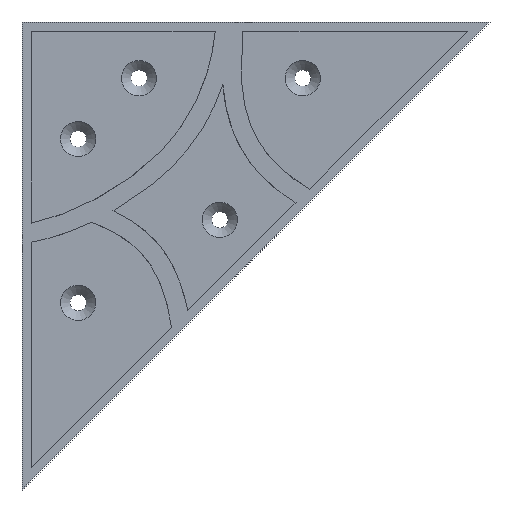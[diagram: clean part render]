
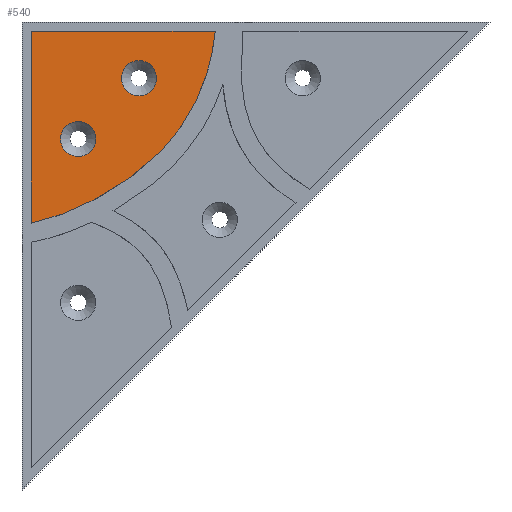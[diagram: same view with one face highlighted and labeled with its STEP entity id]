
A CAD part, front view. The second image highlights one B-rep face of the part: STEP entity #540.
In plain terms, the highlighted planar face has unit normal (0, -1, 0).
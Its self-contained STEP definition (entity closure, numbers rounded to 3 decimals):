
#25=CIRCLE('',#587,3.75);
#26=CIRCLE('',#588,3.75);
#51=FACE_BOUND('',#133,.T.);
#52=FACE_BOUND('',#134,.T.);
#77=B_SPLINE_CURVE_WITH_KNOTS('',3,(#954,#955,#956,#957,#958,#959,#960,
#961,#962,#963),.UNSPECIFIED.,.F.,.F.,(4,2,2,2,4),(0.222,1.152,
2.751,3.604,4.172),.UNSPECIFIED.);
#95=FACE_OUTER_BOUND('',#132,.T.);
#132=EDGE_LOOP('',(#412,#413,#414));
#133=EDGE_LOOP('',(#415));
#134=EDGE_LOOP('',(#416));
#177=LINE('',#853,#213);
#185=LINE('',#912,#221);
#213=VECTOR('',#636,10.);
#221=VECTOR('',#656,10.);
#255=VERTEX_POINT('',#844);
#256=VERTEX_POINT('',#851);
#265=VERTEX_POINT('',#911);
#266=VERTEX_POINT('',#964);
#267=VERTEX_POINT('',#966);
#306=EDGE_CURVE('',#255,#256,#177,.T.);
#320=EDGE_CURVE('',#256,#265,#185,.T.);
#323=EDGE_CURVE('',#265,#255,#77,.T.);
#324=EDGE_CURVE('',#266,#266,#25,.T.);
#325=EDGE_CURVE('',#267,#267,#26,.T.);
#412=ORIENTED_EDGE('',*,*,#306,.T.);
#413=ORIENTED_EDGE('',*,*,#320,.T.);
#414=ORIENTED_EDGE('',*,*,#323,.T.);
#415=ORIENTED_EDGE('',*,*,#324,.F.);
#416=ORIENTED_EDGE('',*,*,#325,.F.);
#523=PLANE('',#586);
#540=ADVANCED_FACE('',(#95,#51,#52),#523,.F.);
#586=AXIS2_PLACEMENT_3D('',#953,#657,#658);
#587=AXIS2_PLACEMENT_3D('',#965,#659,#660);
#588=AXIS2_PLACEMENT_3D('',#967,#661,#662);
#636=DIRECTION('',(-1.,0.,0.));
#656=DIRECTION('',(0.,0.,-1.));
#657=DIRECTION('center_axis',(0.,1.,0.));
#658=DIRECTION('ref_axis',(1.,0.,0.));
#659=DIRECTION('center_axis',(0.,-1.,0.));
#660=DIRECTION('ref_axis',(1.,0.,0.));
#661=DIRECTION('center_axis',(0.,-1.,0.));
#662=DIRECTION('ref_axis',(1.,0.,0.));
#844=CARTESIAN_POINT('',(3.618,-5.,44.981));
#851=CARTESIAN_POINT('',(-35.663,-5.,44.981));
#853=CARTESIAN_POINT('',(-11.663,-5.,44.981));
#911=CARTESIAN_POINT('',(-35.663,-5.,3.994));
#912=CARTESIAN_POINT('',(-35.663,-5.,-25.605));
#953=CARTESIAN_POINT('Origin',(12.337,-5.,-3.019));
#954=CARTESIAN_POINT('Ctrl Pts',(-35.663,-5.,3.994));
#955=CARTESIAN_POINT('Ctrl Pts',(-32.535,-5.,4.604));
#956=CARTESIAN_POINT('Ctrl Pts',(-29.353,-5.,5.716));
#957=CARTESIAN_POINT('Ctrl Pts',(-21.615,-5.,9.056));
#958=CARTESIAN_POINT('Ctrl Pts',(-14.345,-5.,12.964));
#959=CARTESIAN_POINT('Ctrl Pts',(-5.227,-5.,22.102));
#960=CARTESIAN_POINT('Ctrl Pts',(-1.849,-5.,26.446));
#961=CARTESIAN_POINT('Ctrl Pts',(2.21,-5.,36.441));
#962=CARTESIAN_POINT('Ctrl Pts',(3.214,-5.,40.675));
#963=CARTESIAN_POINT('Ctrl Pts',(3.618,-5.,44.981));
#964=CARTESIAN_POINT('',(-16.413,-5.,34.981));
#965=CARTESIAN_POINT('Origin',(-12.663,-5.,34.981));
#966=CARTESIAN_POINT('',(-29.413,-5.,21.981));
#967=CARTESIAN_POINT('Origin',(-25.663,-5.,21.981));
